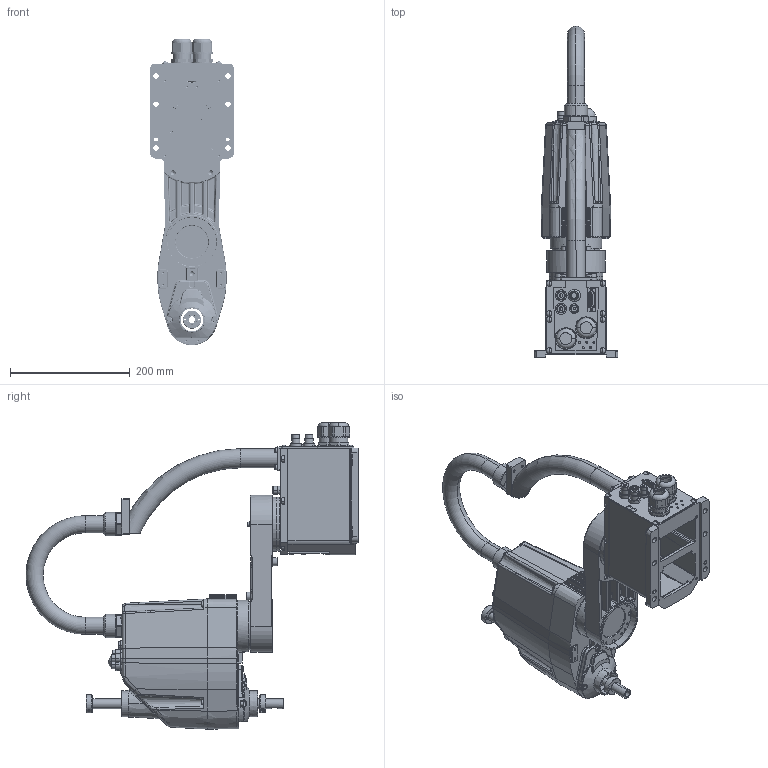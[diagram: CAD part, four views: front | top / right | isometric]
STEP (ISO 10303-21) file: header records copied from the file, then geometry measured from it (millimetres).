
FILE_DESCRIPTION((''),'2;1');
FILE_NAME('G3-301S_ASM','2009-01-19T',('0179539'),(''),'PRO/ENGINEER BY PARAMETRIC TECHNOLOGY CORPORATION, 2006510','PRO/ENGINEER BY PARAMETRIC TECHNOLOGY CORPORATION, 2006510','');
FILE_SCHEMA(('AUTOMOTIVE_DESIGN_CC2 { 1 2 10303 214 -1 1 5 2 }'));
Length unit declared in the file: millimetre
Products named in the file (6): BASE_S; J1_300-S; J2; SHAFT_S; CABLE_S-300; G3-301S_ASM
Assembly tree (5 placements, depth 2):
  G3-301S_ASM
    BASE_S
    J1_300-S
    J2
    SHAFT_S
    CABLE_S-300
Bounding box: 140 x 554.45 x 511.35 mm (x, y, z)
Volume: 2299342.9 mm3; surface area: 885928 mm2
Topology: 5 solids, 9 shells, 3583 faces, 8533 edges, 5190 vertices
Faces by surface type: cylinder 1363, plane 1164, bspline 371, cone 339, torus 192, sphere 154
Entity records: 154766 total; most frequent: CARTESIAN_POINT 47831, DIRECTION 17179, ORIENTED_EDGE 16858, EDGE_CURVE 8429, AXIS2_PLACEMENT_3D 6713, VERTEX_POINT 5190, EDGE_LOOP 4177, VECTOR 3753
